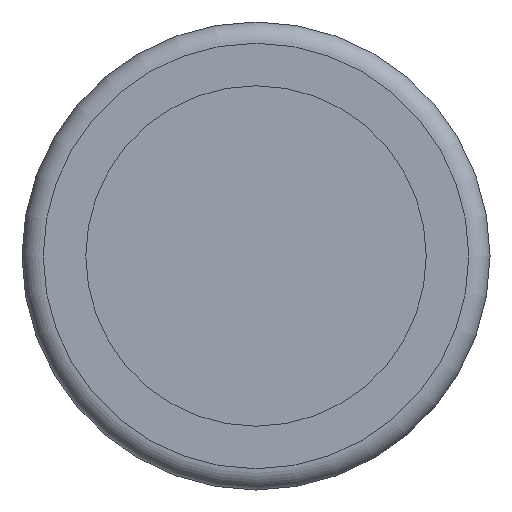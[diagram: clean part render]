
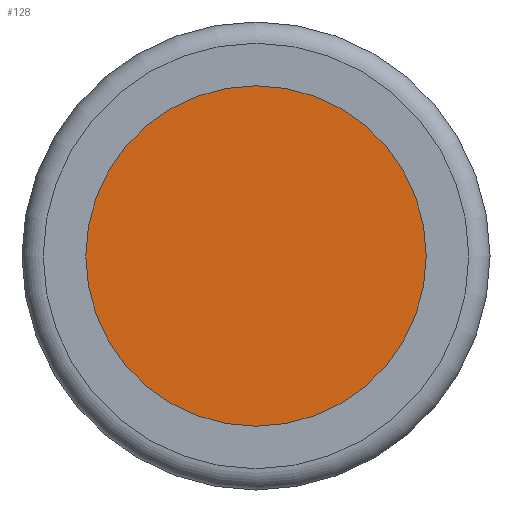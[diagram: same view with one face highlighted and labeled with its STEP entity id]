
A CAD part, left-side view. The second image highlights one B-rep face of the part: STEP entity #128.
In plain terms, the highlighted planar face has unit normal (-1, 0, 0).
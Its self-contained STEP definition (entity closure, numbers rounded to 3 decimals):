
#99=CARTESIAN_POINT('',(0.0,16.0,0.));
#100=VERTEX_POINT('',#99);
#101=CARTESIAN_POINT('',(0.0,0.0,0.0));
#102=DIRECTION('',(-1.0,0.0,0.0));
#103=DIRECTION('',(0.0,-1.0,0.0));
#104=AXIS2_PLACEMENT_3D('',#101,#102,#103);
#105=CIRCLE('',#104,16.0);
#106=EDGE_CURVE('',#100,#100,#105,.T.);
#120=CARTESIAN_POINT('',(0.0,0.0,0.0));
#121=DIRECTION('',(-1.0,0.0,0.0));
#122=DIRECTION('',(0.0,0.0,1.0));
#123=AXIS2_PLACEMENT_3D('',#120,#121,#122);
#124=PLANE('',#123);
#125=ORIENTED_EDGE('',*,*,#106,.T.);
#126=EDGE_LOOP('',(#125));
#127=FACE_OUTER_BOUND('',#126,.T.);
#128=ADVANCED_FACE('',(#127),#124,.T.);
